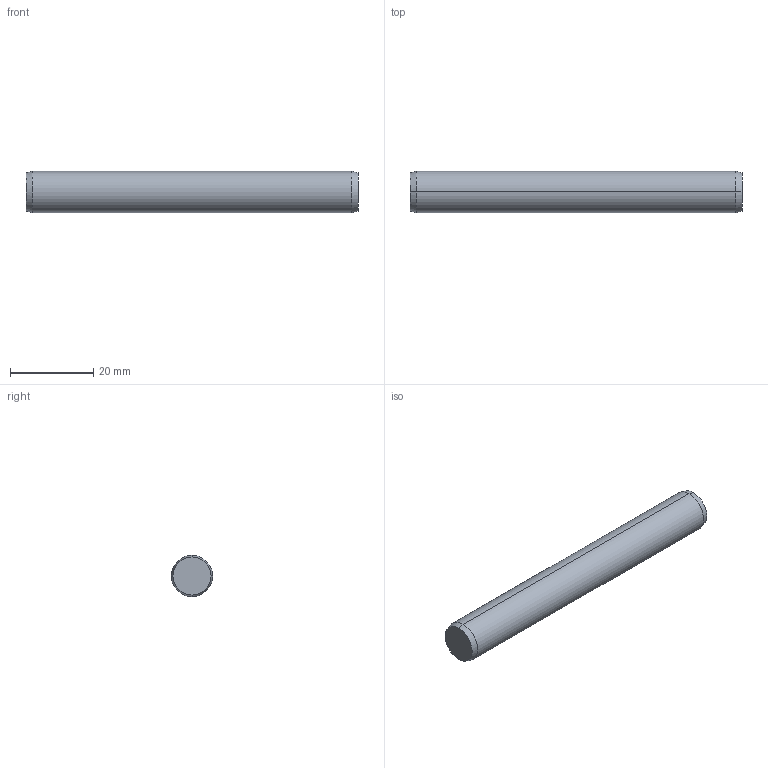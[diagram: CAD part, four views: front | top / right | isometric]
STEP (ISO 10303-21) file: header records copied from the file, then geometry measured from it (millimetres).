
FILE_DESCRIPTION (( 'STEP AP203' ), '1' );
FILE_NAME ('P1206.100-080.step', '2017-06-14T08:34:37', ( 'User' ), ( '' ), 'SwSTEP 2.0', 'SolidWorks 2009', '' );
FILE_SCHEMA (( 'CONFIG_CONTROL_DESIGN' ));
Length unit declared in the file: millimetre
Products named in the file (1): P1206.100-080
Bounding box: 80 x 10 x 10 mm (x, y, z)
Volume: 6264.8 mm3; surface area: 2645.5 mm2
Topology: 1 solids, 1 shells, 8 faces, 14 edges, 8 vertices
Faces by surface type: cone 4, cylinder 2, plane 2
Entity records: 271 total; most frequent: DIRECTION 40, CARTESIAN_POINT 31, ORIENTED_EDGE 28, AXIS2_PLACEMENT_3D 17, EDGE_CURVE 14, CIRCLE 8, FACE_OUTER_BOUND 8, ADVANCED_FACE 8
